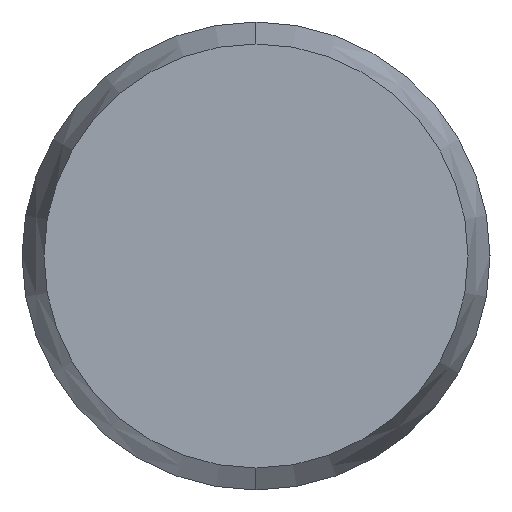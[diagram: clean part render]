
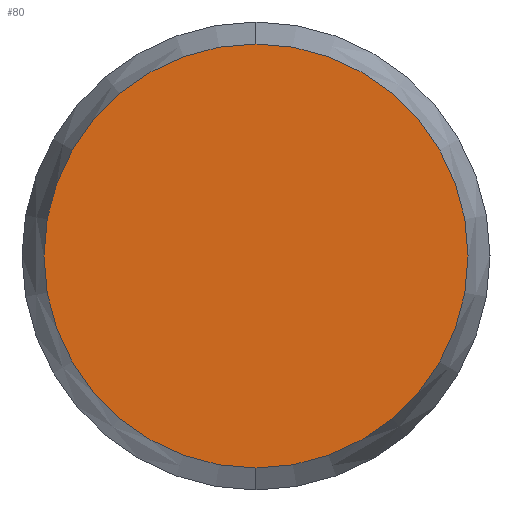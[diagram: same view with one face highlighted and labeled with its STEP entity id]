
A CAD part, left-side view. The second image highlights one B-rep face of the part: STEP entity #80.
In plain terms, the highlighted planar face has unit normal (-1, 0, 0).
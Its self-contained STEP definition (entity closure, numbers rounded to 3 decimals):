
#2 = DIRECTION ( 'NONE',  ( 0., 0., -1. ) ) ;
#3 = DIRECTION ( 'NONE',  ( 1., 0., 0. ) ) ;
#8 = CARTESIAN_POINT ( 'NONE',  ( -22.5, 0., 0. ) ) ;
#11 = FACE_OUTER_BOUND ( 'NONE', #85, .T. ) ;
#12 = CIRCLE ( 'NONE', #15, 1.812 ) ;
#15 = AXIS2_PLACEMENT_3D ( 'NONE', #8, #28, #16 ) ;
#16 = DIRECTION ( 'NONE',  ( 0., 0., -1. ) ) ;
#20 = PLANE ( 'NONE',  #26 ) ;
#25 = CARTESIAN_POINT ( 'NONE',  ( -22.5, 0., 0. ) ) ;
#26 = AXIS2_PLACEMENT_3D ( 'NONE', #25, #3, #2 ) ;
#28 = DIRECTION ( 'NONE',  ( 1., 0., 0. ) ) ;
#45 = VERTEX_POINT ( 'NONE', #147 ) ;
#53 = EDGE_CURVE ( 'NONE', #45, #59, #105, .T. ) ;
#59 = VERTEX_POINT ( 'NONE', #241 ) ;
#67 = ORIENTED_EDGE ( 'NONE', *, *, #75, .F. ) ;
#72 = ORIENTED_EDGE ( 'NONE', *, *, #53, .F. ) ;
#75 = EDGE_CURVE ( 'NONE', #59, #45, #12, .T. ) ;
#80 = ADVANCED_FACE ( 'NONE', ( #11 ), #20, .F. ) ;
#85 = EDGE_LOOP ( 'NONE', ( #72, #67 ) ) ;
#104 = DIRECTION ( 'NONE',  ( 0., 0., -1. ) ) ;
#105 = CIRCLE ( 'NONE', #108, 1.812 ) ;
#106 = DIRECTION ( 'NONE',  ( 1., 0., 0. ) ) ;
#107 = CARTESIAN_POINT ( 'NONE',  ( -22.5, 0., 0. ) ) ;
#108 = AXIS2_PLACEMENT_3D ( 'NONE', #107, #106, #104 ) ;
#147 = CARTESIAN_POINT ( 'NONE',  ( -22.5, 0., 1.812 ) ) ;
#241 = CARTESIAN_POINT ( 'NONE',  ( -22.5, 0., -1.812 ) ) ;
